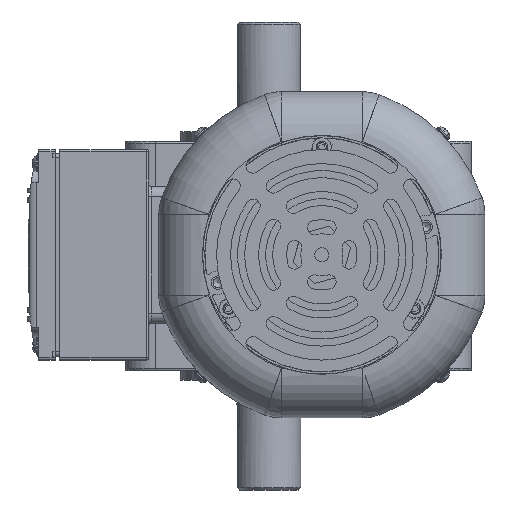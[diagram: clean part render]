
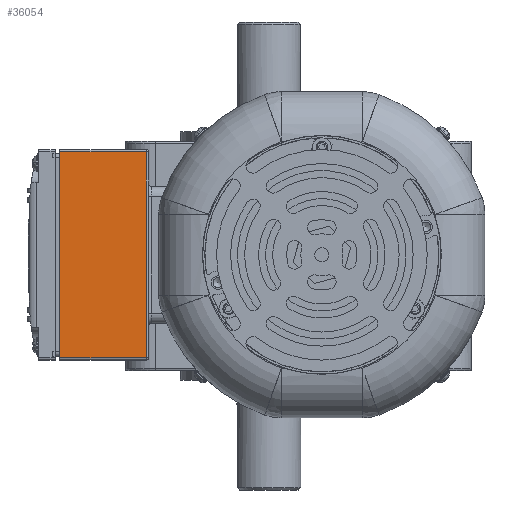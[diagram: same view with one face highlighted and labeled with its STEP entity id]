
A CAD part, left-side view. The second image highlights one B-rep face of the part: STEP entity #36054.
In plain terms, the highlighted planar face has unit normal (-1, 0, 0).
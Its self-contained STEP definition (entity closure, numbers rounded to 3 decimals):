
#2337=LINE('',#65629,#4864);
#2484=LINE('',#66037,#5011);
#2485=LINE('',#66042,#5012);
#2496=LINE('',#66082,#5023);
#4864=VECTOR('',#48195,10.);
#5011=VECTOR('',#48600,10.);
#5012=VECTOR('',#48605,10.);
#5023=VECTOR('',#48660,10.);
#8341=FACE_OUTER_BOUND('',#10546,.T.);
#10546=EDGE_LOOP('',(#29139,#29140,#29141,#29142));
#15754=VERTEX_POINT('',#65626);
#15755=VERTEX_POINT('',#65628);
#15887=VERTEX_POINT('',#66035);
#15888=VERTEX_POINT('',#66039);
#20268=EDGE_CURVE('',#15755,#15754,#2337,.T.);
#20473=EDGE_CURVE('',#15755,#15887,#2484,.T.);
#20475=EDGE_CURVE('',#15888,#15754,#2485,.T.);
#20496=EDGE_CURVE('',#15887,#15888,#2496,.T.);
#29139=ORIENTED_EDGE('',*,*,#20496,.F.);
#29140=ORIENTED_EDGE('',*,*,#20473,.F.);
#29141=ORIENTED_EDGE('',*,*,#20268,.T.);
#29142=ORIENTED_EDGE('',*,*,#20475,.F.);
#32656=PLANE('',#39766);
#36054=ADVANCED_FACE('',(#8341),#32656,.T.);
#39766=AXIS2_PLACEMENT_3D('',#66213,#48818,#48819);
#48195=DIRECTION('',(0.,0.,-1.));
#48600=DIRECTION('',(0.,-1.,0.));
#48605=DIRECTION('',(0.,1.,0.));
#48660=DIRECTION('',(0.,0.,-1.));
#48818=DIRECTION('center_axis',(-1.,0.,0.));
#48819=DIRECTION('ref_axis',(0.,1.,0.));
#65626=CARTESIAN_POINT('',(-204.,84.06,-39.639));
#65628=CARTESIAN_POINT('',(-204.,84.06,48.361));
#65629=CARTESIAN_POINT('',(-204.,84.06,-40.639));
#66035=CARTESIAN_POINT('',(-204.,47.06,48.361));
#66037=CARTESIAN_POINT('',(-204.,46.06,48.361));
#66039=CARTESIAN_POINT('',(-204.,47.06,-39.639));
#66042=CARTESIAN_POINT('',(-204.,46.06,-39.639));
#66082=CARTESIAN_POINT('',(-204.,47.06,26.861));
#66213=CARTESIAN_POINT('Origin',(-204.,46.06,49.361));
